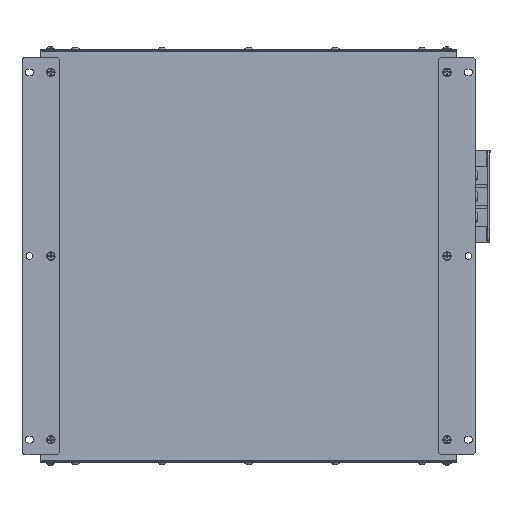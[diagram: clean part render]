
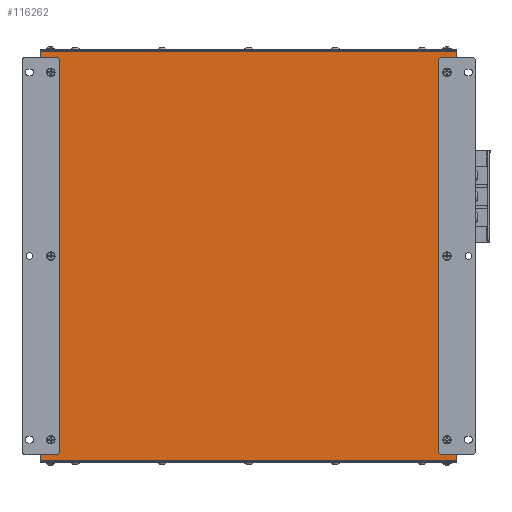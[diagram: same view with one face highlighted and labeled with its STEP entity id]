
A CAD part, front view. The second image highlights one B-rep face of the part: STEP entity #116262.
In plain terms, the highlighted planar face has unit normal (0, -1, 0).
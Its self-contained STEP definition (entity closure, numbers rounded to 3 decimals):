
#7924=PLANE('',#124003);
#13355=FACE_OUTER_BOUND('',#20076,.T.);
#20076=EDGE_LOOP('',(#96343,#96344,#96345,#96346,#96347,#96348,#96349,#96350,
#96351,#96352,#96353,#96354,#96355,#96356,#96357,#96358));
#22662=LINE('',#158823,#32515);
#22664=LINE('',#158827,#32517);
#22765=LINE('',#159281,#32618);
#22769=LINE('',#159290,#32622);
#22773=LINE('',#159300,#32626);
#22807=LINE('',#159422,#32660);
#22811=LINE('',#159431,#32664);
#22815=LINE('',#159440,#32668);
#22856=LINE('',#159586,#32709);
#22857=LINE('',#159588,#32710);
#29483=LINE('',#210588,#39336);
#29488=LINE('',#210597,#39341);
#32515=VECTOR('',#128891,10.);
#32517=VECTOR('',#128893,10.);
#32618=VECTOR('',#129256,10.);
#32622=VECTOR('',#129266,10.);
#32626=VECTOR('',#129276,10.);
#32660=VECTOR('',#129408,10.);
#32664=VECTOR('',#129418,10.);
#32668=VECTOR('',#129428,10.);
#32709=VECTOR('',#129585,10.);
#32710=VECTOR('',#129586,10.);
#39336=VECTOR('',#146186,10.);
#39341=VECTOR('',#146193,10.);
#42149=CIRCLE('',#118898,4.);
#42150=CIRCLE('',#118901,4.);
#42176=CIRCLE('',#118953,4.);
#42177=CIRCLE('',#118956,4.);
#45936=VERTEX_POINT('',#158820);
#45937=VERTEX_POINT('',#158822);
#45938=VERTEX_POINT('',#158824);
#45939=VERTEX_POINT('',#158826);
#46118=VERTEX_POINT('',#159279);
#46119=VERTEX_POINT('',#159280);
#46120=VERTEX_POINT('',#159285);
#46121=VERTEX_POINT('',#159289);
#46122=VERTEX_POINT('',#159293);
#46124=VERTEX_POINT('',#159298);
#46163=VERTEX_POINT('',#159421);
#46164=VERTEX_POINT('',#159426);
#46165=VERTEX_POINT('',#159430);
#46166=VERTEX_POINT('',#159434);
#46214=VERTEX_POINT('',#159584);
#46215=VERTEX_POINT('',#159587);
#56975=EDGE_CURVE('',#45936,#45937,#22662,.T.);
#56977=EDGE_CURVE('',#45938,#45939,#22664,.T.);
#57184=EDGE_CURVE('',#46118,#46119,#22765,.T.);
#57187=EDGE_CURVE('',#46119,#46120,#42149,.T.);
#57189=EDGE_CURVE('',#46120,#46121,#22769,.T.);
#57191=EDGE_CURVE('',#46121,#46122,#42150,.T.);
#57194=EDGE_CURVE('',#46122,#46124,#22773,.T.);
#57253=EDGE_CURVE('',#45938,#46163,#22807,.T.);
#57256=EDGE_CURVE('',#46163,#46164,#42176,.T.);
#57258=EDGE_CURVE('',#46164,#46165,#22811,.T.);
#57260=EDGE_CURVE('',#46165,#46166,#42177,.T.);
#57263=EDGE_CURVE('',#46166,#45937,#22815,.T.);
#57333=EDGE_CURVE('',#46214,#46124,#22856,.T.);
#57334=EDGE_CURVE('',#46118,#46215,#22857,.T.);
#67911=EDGE_CURVE('',#45939,#46214,#29483,.T.);
#67916=EDGE_CURVE('',#46215,#45936,#29488,.T.);
#96343=ORIENTED_EDGE('',*,*,#57194,.T.);
#96344=ORIENTED_EDGE('',*,*,#57333,.F.);
#96345=ORIENTED_EDGE('',*,*,#67911,.F.);
#96346=ORIENTED_EDGE('',*,*,#56977,.F.);
#96347=ORIENTED_EDGE('',*,*,#57253,.T.);
#96348=ORIENTED_EDGE('',*,*,#57256,.T.);
#96349=ORIENTED_EDGE('',*,*,#57258,.T.);
#96350=ORIENTED_EDGE('',*,*,#57260,.T.);
#96351=ORIENTED_EDGE('',*,*,#57263,.T.);
#96352=ORIENTED_EDGE('',*,*,#56975,.F.);
#96353=ORIENTED_EDGE('',*,*,#67916,.F.);
#96354=ORIENTED_EDGE('',*,*,#57334,.F.);
#96355=ORIENTED_EDGE('',*,*,#57184,.T.);
#96356=ORIENTED_EDGE('',*,*,#57187,.T.);
#96357=ORIENTED_EDGE('',*,*,#57189,.T.);
#96358=ORIENTED_EDGE('',*,*,#57191,.T.);
#116262=ADVANCED_FACE('',(#13355),#7924,.F.);
#118898=AXIS2_PLACEMENT_3D('',#159286,#129261,#129262);
#118901=AXIS2_PLACEMENT_3D('',#159294,#129270,#129271);
#118953=AXIS2_PLACEMENT_3D('',#159427,#129413,#129414);
#118956=AXIS2_PLACEMENT_3D('',#159435,#129422,#129423);
#124003=AXIS2_PLACEMENT_3D('',#210596,#146191,#146192);
#128891=DIRECTION('',(0.,0.,-1.));
#128893=DIRECTION('',(0.,0.,-1.));
#129256=DIRECTION('',(1.,0.,0.));
#129261=DIRECTION('center_axis',(0.,1.,
0.));
#129262=DIRECTION('ref_axis',(1.,0.,0.));
#129266=DIRECTION('',(0.,0.,-1.));
#129270=DIRECTION('center_axis',(0.,1.,
0.));
#129271=DIRECTION('ref_axis',(0.,0.,
-1.));
#129276=DIRECTION('',(-1.,0.,0.));
#129408=DIRECTION('',(-1.,0.,0.));
#129413=DIRECTION('center_axis',(0.,1.,
0.));
#129414=DIRECTION('ref_axis',(-1.,0.,0.));
#129418=DIRECTION('',(0.,0.,1.));
#129422=DIRECTION('center_axis',(0.,1.,
0.));
#129423=DIRECTION('ref_axis',(0.,0.,
1.));
#129428=DIRECTION('',(1.,0.,0.));
#129585=DIRECTION('',(0.,0.,1.));
#129586=DIRECTION('',(0.,0.,1.));
#146186=DIRECTION('',(-1.,0.,0.));
#146191=DIRECTION('center_axis',(0.,1.,
0.));
#146192=DIRECTION('ref_axis',(0.,0.,
1.));
#146193=DIRECTION('',(1.,0.,0.));
#158820=CARTESIAN_POINT('',(361.667,507.186,358.723));
#158822=CARTESIAN_POINT('',(361.667,507.186,352.623));
#158823=CARTESIAN_POINT('',(361.667,507.186,358.723));
#158824=CARTESIAN_POINT('',(361.667,507.186,-47.377));
#158826=CARTESIAN_POINT('',(361.667,507.186,-53.477));
#158827=CARTESIAN_POINT('',(361.667,507.186,358.723));
#159279=CARTESIAN_POINT('',(-57.333,507.355,352.623));
#159280=CARTESIAN_POINT('',(-42.333,507.349,352.623));
#159281=CARTESIAN_POINT('',(54.917,507.31,352.623));
#159285=CARTESIAN_POINT('',(-38.333,507.348,348.623));
#159286=CARTESIAN_POINT('Origin',(-42.333,507.349,348.623));
#159289=CARTESIAN_POINT('',(-38.333,507.348,-43.377));
#159290=CARTESIAN_POINT('',(-38.333,507.348,54.623));
#159293=CARTESIAN_POINT('',(-42.333,507.349,-47.377));
#159294=CARTESIAN_POINT('Origin',(-42.333,507.349,-43.377));
#159298=CARTESIAN_POINT('',(-57.333,507.355,-47.377));
#159300=CARTESIAN_POINT('',(39.917,507.316,-47.377));
#159421=CARTESIAN_POINT('',(346.667,507.192,-47.377));
#159422=CARTESIAN_POINT('',(249.417,507.231,-47.377));
#159426=CARTESIAN_POINT('',(342.667,507.193,-43.377));
#159427=CARTESIAN_POINT('Origin',(346.667,507.192,-43.377));
#159430=CARTESIAN_POINT('',(342.667,507.193,348.623));
#159431=CARTESIAN_POINT('',(342.667,507.193,250.623));
#159434=CARTESIAN_POINT('',(346.667,507.192,352.623));
#159435=CARTESIAN_POINT('Origin',(346.667,507.192,348.623));
#159440=CARTESIAN_POINT('',(264.417,507.225,352.623));
#159584=CARTESIAN_POINT('',(-57.333,507.355,-53.477));
#159586=CARTESIAN_POINT('',(-57.333,507.355,-53.477));
#159587=CARTESIAN_POINT('',(-57.333,507.355,358.723));
#159588=CARTESIAN_POINT('',(-57.333,507.355,-53.477));
#210588=CARTESIAN_POINT('',(361.667,507.186,-53.477));
#210596=CARTESIAN_POINT('Origin',(152.167,507.27,152.623));
#210597=CARTESIAN_POINT('',(-57.333,507.355,358.723));
